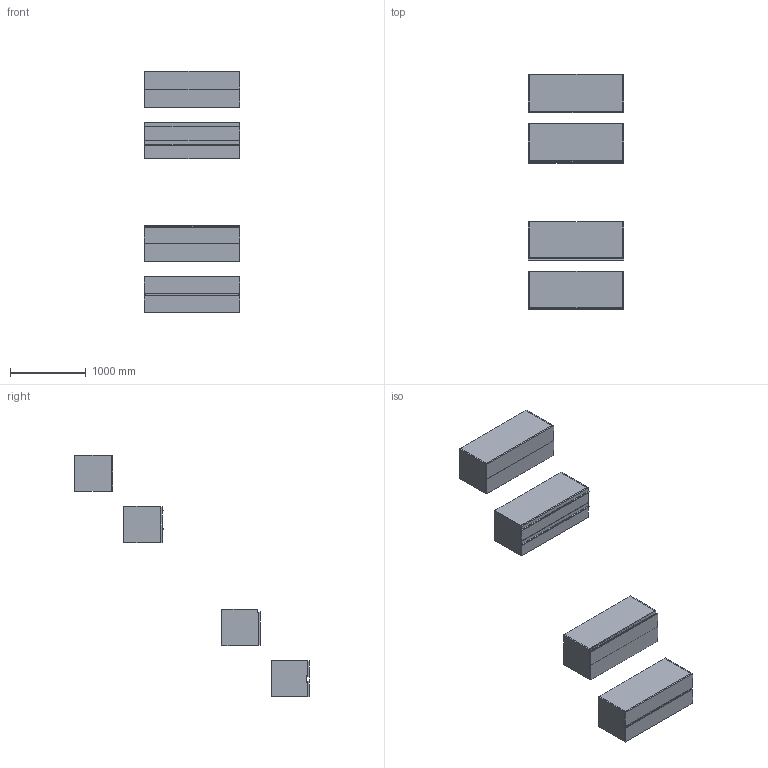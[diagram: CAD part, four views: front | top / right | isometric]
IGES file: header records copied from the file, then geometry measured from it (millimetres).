
Start section: Data from Parasolid IGES Translator 19.0.9, Copyright(c) 2006 Siemens PL M Software. All Rights Reserved.
Global section: file name: noorth-SI-H 48 D 51 W 126_8585.igs; native system: By Siemens PLM Incorporated; preprocessor: XPlus GENERIC/IGES 19.0.9; author: Noname; organization: Noname; date: 20200601.112413; units: metre
Bounding box: 1260 x 3107.1 x 3200.01 mm (x, y, z)
Volume: 156183525 mm3; surface area: 24074071.1 mm2
Topology: 33 solids, 33 shells, 318 faces, 700 edges, 428 vertices
Faces by surface type: plane 230, extrusion 36, bspline 32, cylinder 20
